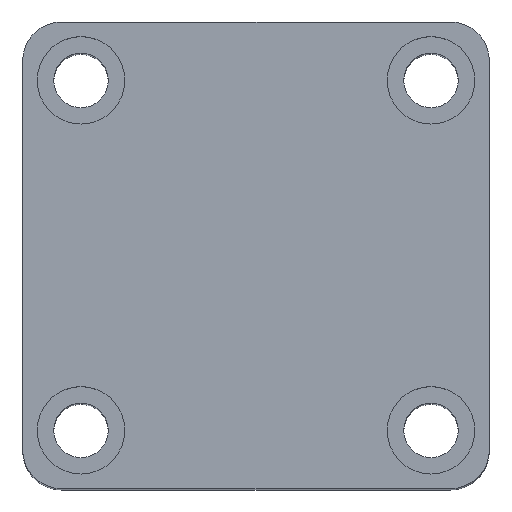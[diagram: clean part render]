
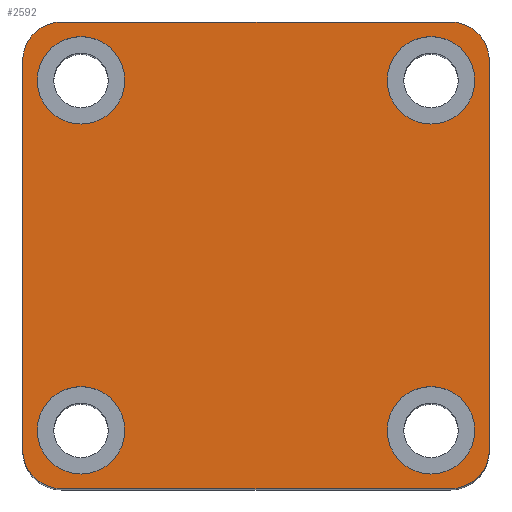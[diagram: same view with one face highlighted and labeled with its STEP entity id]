
A CAD part, top view. The second image highlights one B-rep face of the part: STEP entity #2592.
In plain terms, the highlighted planar face has unit normal (0, 0, 1).
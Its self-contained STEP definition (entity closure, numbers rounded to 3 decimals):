
#286 = VERTEX_POINT ( 'NONE', #1287 ) ;
#287 = VERTEX_POINT ( 'NONE', #1284 ) ;
#290 = VERTEX_POINT ( 'NONE', #1276 ) ;
#291 = VERTEX_POINT ( 'NONE', #1274 ) ;
#294 = VERTEX_POINT ( 'NONE', #1265 ) ;
#295 = VERTEX_POINT ( 'NONE', #1262 ) ;
#300 = VERTEX_POINT ( 'NONE', #1248 ) ;
#302 = VERTEX_POINT ( 'NONE', #1239 ) ;
#323 = VERTEX_POINT ( 'NONE', #1192 ) ;
#335 = VERTEX_POINT ( 'NONE', #1173 ) ;
#405 = VERTEX_POINT ( 'NONE', #1054 ) ;
#428 = VERTEX_POINT ( 'NONE', #1053 ) ;
#439 = VERTEX_POINT ( 'NONE', #1048 ) ;
#445 = VERTEX_POINT ( 'NONE', #1039 ) ;
#452 = VERTEX_POINT ( 'NONE', #1040 ) ;
#530 = VERTEX_POINT ( 'NONE', #1031 ) ;
#836 = ORIENTED_EDGE ( 'NONE', *, *, #1734, .T. ) ;
#846 = ORIENTED_EDGE ( 'NONE', *, *, #1724, .F. ) ;
#847 = ORIENTED_EDGE ( 'NONE', *, *, #1664, .F. ) ;
#848 = ORIENTED_EDGE ( 'NONE', *, *, #1725, .F. ) ;
#849 = ORIENTED_EDGE ( 'NONE', *, *, #1660, .F. ) ;
#851 = ORIENTED_EDGE ( 'NONE', *, *, #1710, .F. ) ;
#852 = ORIENTED_EDGE ( 'NONE', *, *, #1656, .F. ) ;
#853 = ORIENTED_EDGE ( 'NONE', *, *, #1723, .F. ) ;
#856 = ORIENTED_EDGE ( 'NONE', *, *, #1708, .T. ) ;
#858 = ORIENTED_EDGE ( 'NONE', *, *, #1733, .T. ) ;
#859 = ORIENTED_EDGE ( 'NONE', *, *, #1745, .T. ) ;
#861 = ORIENTED_EDGE ( 'NONE', *, *, #1731, .T. ) ;
#862 = ORIENTED_EDGE ( 'NONE', *, *, #1727, .T. ) ;
#863 = ORIENTED_EDGE ( 'NONE', *, *, #1729, .T. ) ;
#864 = ORIENTED_EDGE ( 'NONE', *, *, #1722, .T. ) ;
#865 = ORIENTED_EDGE ( 'NONE', *, *, #1668, .F. ) ;
#910 = EDGE_LOOP ( 'NONE', ( #851, #849 ) ) ;
#912 = EDGE_LOOP ( 'NONE', ( #846, #865 ) ) ;
#913 = EDGE_LOOP ( 'NONE', ( #864, #863, #862, #861, #859, #858, #856, #836 ) ) ;
#924 = EDGE_LOOP ( 'NONE', ( #853, #852 ) ) ;
#1015 = EDGE_LOOP ( 'NONE', ( #848, #847 ) ) ;
#1017 = DIRECTION ( 'NONE',  ( 0., 0., 1. ) ) ;
#1018 = CARTESIAN_POINT ( 'NONE',  ( 18., 18., 80. ) ) ;
#1031 = CARTESIAN_POINT ( 'NONE',  ( 20., 24., 80. ) ) ;
#1033 = DIRECTION ( 'NONE',  ( 1., 0., 0. ) ) ;
#1034 = DIRECTION ( 'NONE',  ( 0., 0., 1. ) ) ;
#1035 = CARTESIAN_POINT ( 'NONE',  ( -18., 18., 80. ) ) ;
#1039 = CARTESIAN_POINT ( 'NONE',  ( 20., -24., 80. ) ) ;
#1040 = CARTESIAN_POINT ( 'NONE',  ( -20., 24., 80. ) ) ;
#1048 = CARTESIAN_POINT ( 'NONE',  ( -20., -24., 80. ) ) ;
#1053 = CARTESIAN_POINT ( 'NONE',  ( -24., 20., 80. ) ) ;
#1054 = CARTESIAN_POINT ( 'NONE',  ( -24., -20., 80. ) ) ;
#1173 = CARTESIAN_POINT ( 'NONE',  ( 24., 20., 80. ) ) ;
#1192 = CARTESIAN_POINT ( 'NONE',  ( 24., -20., 80. ) ) ;
#1239 = CARTESIAN_POINT ( 'NONE',  ( 22.5, -18., 80. ) ) ;
#1248 = CARTESIAN_POINT ( 'NONE',  ( 13.5, -18., 80. ) ) ;
#1262 = CARTESIAN_POINT ( 'NONE',  ( -13.5, -18., 80. ) ) ;
#1265 = CARTESIAN_POINT ( 'NONE',  ( -22.5, -18., 80. ) ) ;
#1274 = CARTESIAN_POINT ( 'NONE',  ( 22.5, 18., 80. ) ) ;
#1276 = CARTESIAN_POINT ( 'NONE',  ( 13.5, 18., 80. ) ) ;
#1284 = CARTESIAN_POINT ( 'NONE',  ( -13.5, 18., 80. ) ) ;
#1287 = CARTESIAN_POINT ( 'NONE',  ( -22.5, 18., 80. ) ) ;
#1454 = AXIS2_PLACEMENT_3D ( 'NONE', #2470, #2011, #2466 ) ;
#1469 = AXIS2_PLACEMENT_3D ( 'NONE', #2249, #2247, #2243 ) ;
#1470 = AXIS2_PLACEMENT_3D ( 'NONE', #2271, #2267, #2264 ) ;
#1471 = AXIS2_PLACEMENT_3D ( 'NONE', #2307, #2306, #2301 ) ;
#1473 = AXIS2_PLACEMENT_3D ( 'NONE', #2343, #2340, #2335 ) ;
#1474 = AXIS2_PLACEMENT_3D ( 'NONE', #2380, #2379, #2372 ) ;
#1475 = AXIS2_PLACEMENT_3D ( 'NONE', #2394, #2391, #2388 ) ;
#1476 = AXIS2_PLACEMENT_3D ( 'NONE', #2408, #2405, #2401 ) ;
#1480 = AXIS2_PLACEMENT_3D ( 'NONE', #2491, #2490, #2489 ) ;
#1512 = AXIS2_PLACEMENT_3D ( 'NONE', #2441, #2439, #2450 ) ;
#1514 = AXIS2_PLACEMENT_3D ( 'NONE', #2536, #2519, #2540 ) ;
#1516 = AXIS2_PLACEMENT_3D ( 'NONE', #1018, #1017, #2570 ) ;
#1518 = AXIS2_PLACEMENT_3D ( 'NONE', #1035, #1034, #1033 ) ;
#1656 = EDGE_CURVE ( 'NONE', #286, #287, #1941, .T. ) ;
#1660 = EDGE_CURVE ( 'NONE', #290, #291, #1935, .T. ) ;
#1664 = EDGE_CURVE ( 'NONE', #294, #295, #1929, .T. ) ;
#1668 = EDGE_CURVE ( 'NONE', #300, #302, #1923, .T. ) ;
#1708 = EDGE_CURVE ( 'NONE', #323, #335, #1872, .T. ) ;
#1710 = EDGE_CURVE ( 'NONE', #291, #290, #1869, .T. ) ;
#1722 = EDGE_CURVE ( 'NONE', #530, #452, #1848, .T. ) ;
#1723 = EDGE_CURVE ( 'NONE', #287, #286, #1846, .T. ) ;
#1724 = EDGE_CURVE ( 'NONE', #302, #300, #1844, .T. ) ;
#1725 = EDGE_CURVE ( 'NONE', #295, #294, #1843, .T. ) ;
#1727 = EDGE_CURVE ( 'NONE', #428, #405, #1841, .T. ) ;
#1729 = EDGE_CURVE ( 'NONE', #452, #428, #1855, .T. ) ;
#1731 = EDGE_CURVE ( 'NONE', #405, #439, #1832, .T. ) ;
#1733 = EDGE_CURVE ( 'NONE', #445, #323, #1830, .T. ) ;
#1734 = EDGE_CURVE ( 'NONE', #335, #530, #1828, .T. ) ;
#1745 = EDGE_CURVE ( 'NONE', #439, #445, #1817, .T. ) ;
#1767 = FACE_BOUND ( 'NONE', #910, .T. ) ;
#1769 = FACE_OUTER_BOUND ( 'NONE', #913, .T. ) ;
#1781 = FACE_BOUND ( 'NONE', #924, .T. ) ;
#1794 = FACE_BOUND ( 'NONE', #1015, .T. ) ;
#1810 = FACE_BOUND ( 'NONE', #912, .T. ) ;
#1814 = VECTOR ( 'NONE', #2076, 1000. ) ;
#1817 = LINE ( 'NONE', #2092, #1814 ) ;
#1828 = CIRCLE ( 'NONE', #1469, 4. ) ;
#1830 = CIRCLE ( 'NONE', #1470, 4. ) ;
#1832 = CIRCLE ( 'NONE', #1471, 4. ) ;
#1837 = VECTOR ( 'NONE', #2364, 1000. ) ;
#1841 = LINE ( 'NONE', #2366, #1837 ) ;
#1843 = CIRCLE ( 'NONE', #1474, 4.5 ) ;
#1844 = CIRCLE ( 'NONE', #1475, 4.5 ) ;
#1845 = VECTOR ( 'NONE', #2422, 1000. ) ;
#1846 = CIRCLE ( 'NONE', #1476, 4.5 ) ;
#1848 = LINE ( 'NONE', #2429, #1845 ) ;
#1855 = CIRCLE ( 'NONE', #1473, 4. ) ;
#1869 = CIRCLE ( 'NONE', #1480, 4.5 ) ;
#1870 = VECTOR ( 'NONE', #2507, 1000. ) ;
#1872 = LINE ( 'NONE', #2508, #1870 ) ;
#1923 = CIRCLE ( 'NONE', #1512, 4.5 ) ;
#1929 = CIRCLE ( 'NONE', #1514, 4.5 ) ;
#1935 = CIRCLE ( 'NONE', #1516, 4.5 ) ;
#1941 = CIRCLE ( 'NONE', #1518, 4.5 ) ;
#2011 = DIRECTION ( 'NONE',  ( 0., 0., 1. ) ) ;
#2076 = DIRECTION ( 'NONE',  ( 1., 0., 0. ) ) ;
#2092 = CARTESIAN_POINT ( 'NONE',  ( -24., -24., 80. ) ) ;
#2243 = DIRECTION ( 'NONE',  ( 1., 0., 0. ) ) ;
#2247 = DIRECTION ( 'NONE',  ( 0., 0., 1. ) ) ;
#2249 = CARTESIAN_POINT ( 'NONE',  ( 20., 20., 80. ) ) ;
#2264 = DIRECTION ( 'NONE',  ( 1., 0., 0. ) ) ;
#2267 = DIRECTION ( 'NONE',  ( 0., 0., 1. ) ) ;
#2271 = CARTESIAN_POINT ( 'NONE',  ( 20., -20., 80. ) ) ;
#2301 = DIRECTION ( 'NONE',  ( 1., 0., 0. ) ) ;
#2306 = DIRECTION ( 'NONE',  ( 0., 0., 1. ) ) ;
#2307 = CARTESIAN_POINT ( 'NONE',  ( -20., -20., 80. ) ) ;
#2335 = DIRECTION ( 'NONE',  ( 1., 0., 0. ) ) ;
#2340 = DIRECTION ( 'NONE',  ( 0., 0., 1. ) ) ;
#2343 = CARTESIAN_POINT ( 'NONE',  ( -20., 20., 80. ) ) ;
#2364 = DIRECTION ( 'NONE',  ( 0., -1., 0. ) ) ;
#2366 = CARTESIAN_POINT ( 'NONE',  ( -24., 24., 80. ) ) ;
#2372 = DIRECTION ( 'NONE',  ( 1., 0., 0. ) ) ;
#2379 = DIRECTION ( 'NONE',  ( 0., 0., 1. ) ) ;
#2380 = CARTESIAN_POINT ( 'NONE',  ( -18., -18., 80. ) ) ;
#2388 = DIRECTION ( 'NONE',  ( 1., 0., 0. ) ) ;
#2391 = DIRECTION ( 'NONE',  ( 0., 0., 1. ) ) ;
#2394 = CARTESIAN_POINT ( 'NONE',  ( 18., -18., 80. ) ) ;
#2401 = DIRECTION ( 'NONE',  ( 1., 0., 0. ) ) ;
#2405 = DIRECTION ( 'NONE',  ( 0., 0., 1. ) ) ;
#2408 = CARTESIAN_POINT ( 'NONE',  ( -18., 18., 80. ) ) ;
#2422 = DIRECTION ( 'NONE',  ( -1., 0., 0. ) ) ;
#2429 = CARTESIAN_POINT ( 'NONE',  ( -24., 24., 80. ) ) ;
#2439 = DIRECTION ( 'NONE',  ( 0., 0., 1. ) ) ;
#2441 = CARTESIAN_POINT ( 'NONE',  ( 18., -18., 80. ) ) ;
#2450 = DIRECTION ( 'NONE',  ( 1., 0., 0. ) ) ;
#2466 = DIRECTION ( 'NONE',  ( 1., 0., 0. ) ) ;
#2470 = CARTESIAN_POINT ( 'NONE',  ( 0., 0., 80. ) ) ;
#2472 = PLANE ( 'NONE',  #1454 ) ;
#2489 = DIRECTION ( 'NONE',  ( 1., 0., 0. ) ) ;
#2490 = DIRECTION ( 'NONE',  ( 0., 0., 1. ) ) ;
#2491 = CARTESIAN_POINT ( 'NONE',  ( 18., 18., 80. ) ) ;
#2507 = DIRECTION ( 'NONE',  ( 0., 1., 0. ) ) ;
#2508 = CARTESIAN_POINT ( 'NONE',  ( 24., 24., 80. ) ) ;
#2519 = DIRECTION ( 'NONE',  ( 0., 0., 1. ) ) ;
#2536 = CARTESIAN_POINT ( 'NONE',  ( -18., -18., 80. ) ) ;
#2540 = DIRECTION ( 'NONE',  ( 1., 0., 0. ) ) ;
#2570 = DIRECTION ( 'NONE',  ( 1., 0., 0. ) ) ;
#2592 = ADVANCED_FACE ( 'NONE', ( #1781, #1767, #1794, #1810, #1769 ), #2472, .T. ) ;
